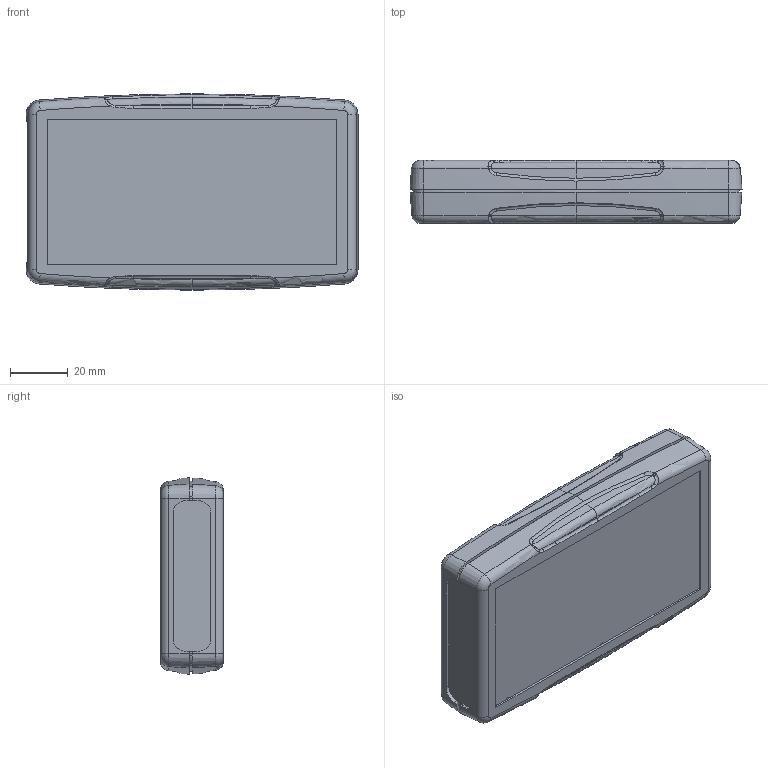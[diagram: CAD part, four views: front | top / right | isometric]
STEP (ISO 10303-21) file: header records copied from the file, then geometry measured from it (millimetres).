
FILE_DESCRIPTION (( 'STEP AP203' ), '1' );
FILE_NAME ('PH028.STEP', '2015-12-11T06:59:57', ( 'admin' ), ( 'Hewlett-Packard Company' ), 'SwSTEP 2.0', 'SolidWorks 2014', '' );
FILE_SCHEMA (( 'CONFIG_CONTROL_DESIGN' ));
Length unit declared in the file: millimetre
Products named in the file (5): PH028
Assembly tree (4 placements, depth 2):
  PH028
    PH028
    PH028
    PH028
    PH028
Bounding box: 115 x 21.8 x 68 mm (x, y, z)
Volume: 43527.1 mm3; surface area: 48983.5 mm2
Topology: 4 solids, 4 shells, 602 faces, 1567 edges, 1022 vertices
Faces by surface type: plane 346, cone 114, bspline 87, torus 34, cylinder 21
Entity records: 23008 total; most frequent: CARTESIAN_POINT 8238, ORIENTED_EDGE 3134, DIRECTION 2697, EDGE_CURVE 1567, VERTEX_POINT 1022, VECTOR 927, LINE 927, AXIS2_PLACEMENT_3D 885
